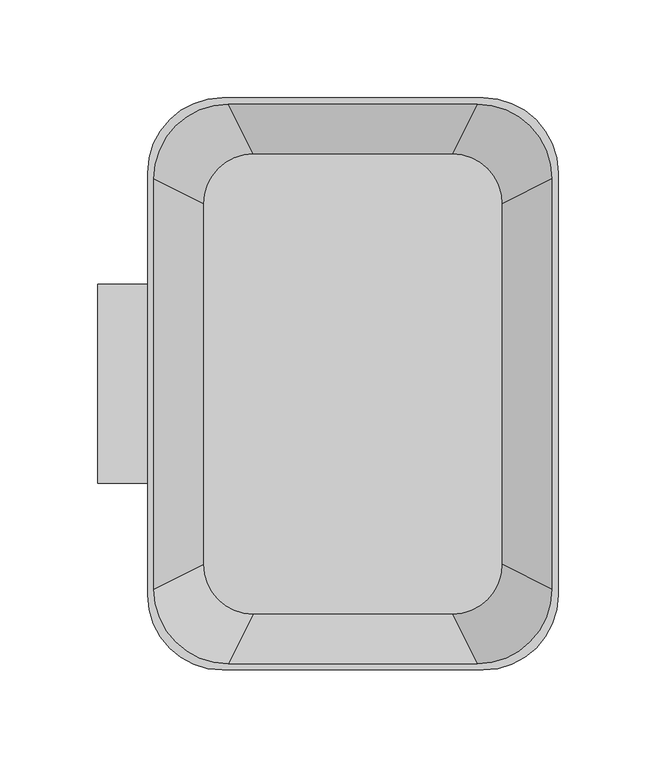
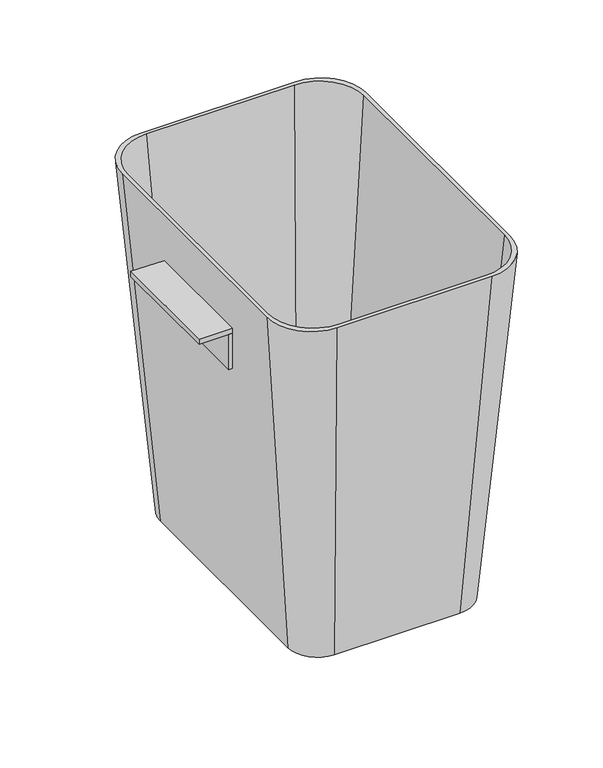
"""IFC4 building model written with IfcOpenShell, lengths in millimetres: furniture geometry, HermanMiller_Carts_CT728_WastebasketAndHolder : 12H x 8D x 11W."""

import ifcopenshell
import ifcopenshell.guid

model = None  # the IFC model being written
_history = None  # IfcOwnerHistory: only IFC2X3 demands one
_inside = {}  # id of a spatial element -> (the spatial element, [elements in it])
_under = {}  # id of a project, library or spatial element -> (it, [spatial elements below it])
_declared = {}  # id of a project -> (the project, [libraries it declares])
_typed = {}  # id of a type object -> (the type object, [elements of that type])
_made_of = {}  # id of a material, layer set ... -> (it, [elements and type objects made of it])


def new_model(schema):
    """Start an empty IFC model of exactly this schema.

    Asked for "IFC4X3", IfcOpenShell would pick the latest addendum, in which some entities
    have other attributes; the version numbers below select the first issue.
    IFC2X3 requires an IfcOwnerHistory on every rooted entity: one is made here for all.
    """
    global model, _history
    if schema == "IFC4X3":
        model = ifcopenshell.file(schema_version=(4, 3, 0, 0))
    else:
        model = ifcopenshell.file(schema=schema)
    _inside.clear()
    _under.clear()
    _declared.clear()
    _typed.clear()
    _made_of.clear()
    _history = None
    if model.schema == "IFC2X3":
        org = make("IfcOrganization", Name="unknown")
        user = make(
            "IfcPersonAndOrganization",
            ThePerson=make("IfcPerson", FamilyName="unknown"),
            TheOrganization=org,
        )
        app = make(
            "IfcApplication",
            ApplicationDeveloper=org,
            Version="unknown",
            ApplicationFullName="unknown",
            ApplicationIdentifier="unknown",
        )
        _history = make(
            "IfcOwnerHistory",
            OwningUser=user,
            OwningApplication=app,
            ChangeAction="ADDED",
            CreationDate=0,
        )
    return model


def make(cls, **values):
    """One entity of the class cls with the attributes given. An attribute that is None is left unset."""
    return model.create_entity(
        cls, **{name: value for name, value in values.items() if value is not None}
    )


def rooted(cls, **values):
    """An entity with a GlobalId (a new one), such as an element, a storey or a relation."""
    return make(cls, GlobalId=ifcopenshell.guid.new(), OwnerHistory=_history, **values)


def si_unit(unit_type, name, prefix=None):
    """IfcSIUnit, for example si_unit("LENGTHUNIT", "METRE", prefix="MILLI")."""
    return make("IfcSIUnit", UnitType=unit_type, Prefix=prefix, Name=name)


def assignment(units):
    """IfcUnitAssignment: the units of a project."""
    return None if units is None else make("IfcUnitAssignment", Units=units)


def point(xyz):
    """IfcCartesianPoint."""
    return None if xyz is None else make("IfcCartesianPoint", Coordinates=xyz)


def direction(xyz):
    """IfcDirection."""
    return None if xyz is None else make("IfcDirection", DirectionRatios=xyz)


def frame(location, z_axis=None, x_axis=None):
    """IfcAxis2Placement3D, a coordinate frame: its origin and axes. An axis left out is left unset."""
    return make(
        "IfcAxis2Placement3D",
        Location=point(location),
        Axis=direction(z_axis),
        RefDirection=direction(x_axis),
    )


def origin():
    """The frame at (0, 0, 0) with its axes left unset."""
    return frame((0.0, 0.0, 0.0))


def place(relative_to, where):
    """IfcLocalPlacement: puts the frame where relative to a parent placement (None: the world)."""
    return make(
        "IfcLocalPlacement", PlacementRelTo=relative_to, RelativePlacement=where
    )


def context(
    kind, dimensions, precision=None, world=None, true_north=None, identifier=None
):
    """IfcGeometricRepresentationContext, for example the 3D "Model" context."""
    return make(
        "IfcGeometricRepresentationContext",
        ContextIdentifier=identifier,
        ContextType=kind,
        CoordinateSpaceDimension=dimensions,
        Precision=precision,
        WorldCoordinateSystem=world,
        TrueNorth=true_north,
    )


def project(units=None, contexts=None):
    """IfcProject with its units and contexts."""
    return rooted(
        "IfcProject",
        Name="project",
        RepresentationContexts=contexts,
        UnitsInContext=assignment(units),
    )


def spatial(cls, under=None, at=None, **own):
    """A site, building, storey or space (cls), placed at a placement, below another one or the project."""
    s = rooted(cls, ObjectPlacement=at, **own)
    if under is not None:
        _under.setdefault(under.id(), (under, []))[1].append(s)
    return s


def polyline(points):
    """IfcPolyline through the points."""
    return make("IfcPolyline", Points=[point(p) for p in points])


def circle_curve(where, radius):
    """IfcCircle in the frame where."""
    return make("IfcCircle", Position=where, Radius=radius)


def outline(outer, holes=None, kind="AREA"):
    """IfcArbitraryClosedProfileDef: a profile drawn as a closed curve; with holes, ...WithVoids."""
    if holes is None:
        return make("IfcArbitraryClosedProfileDef", ProfileType=kind, OuterCurve=outer)
    return make(
        "IfcArbitraryProfileDefWithVoids",
        ProfileType=kind,
        OuterCurve=outer,
        InnerCurves=holes,
    )


def extrude(swept, where, along, depth):
    """IfcExtrudedAreaSolid: the profile swept, set in the frame where, extruded along a direction by depth."""
    return make(
        "IfcExtrudedAreaSolid",
        SweptArea=swept,
        Position=where,
        ExtrudedDirection=direction(along),
        Depth=depth,
    )


def shape(context_of_items, identifier, shape_type, items):
    """IfcShapeRepresentation: the items that make up one representation, for example the "Body"."""
    return make(
        "IfcShapeRepresentation",
        ContextOfItems=context_of_items,
        RepresentationIdentifier=identifier,
        RepresentationType=shape_type,
        Items=items,
    )


def source(mapping_origin, context_of_items, identifier, shape_type, items):
    """IfcRepresentationMap: a shape defined once, which mapped items show again and again."""
    return make(
        "IfcRepresentationMap",
        MappingOrigin=mapping_origin,
        MappedRepresentation=shape(context_of_items, identifier, shape_type, items),
    )


def transform(
    local_origin,
    x_axis=None,
    y_axis=None,
    z_axis=None,
    scale=None,
    scale2=None,
    scale3=None,
    uniform=True,
):
    """IfcCartesianTransformationOperator3D, or its non-uniform kind. x_axis, y_axis, z_axis: its Axis1, 2, 3."""
    if uniform:
        return make(
            "IfcCartesianTransformationOperator3D",
            Axis1=direction(x_axis),
            Axis2=direction(y_axis),
            LocalOrigin=point(local_origin),
            Scale=scale,
            Axis3=direction(z_axis),
        )
    return make(
        "IfcCartesianTransformationOperator3DnonUniform",
        Axis1=direction(x_axis),
        Axis2=direction(y_axis),
        LocalOrigin=point(local_origin),
        Scale=scale,
        Axis3=direction(z_axis),
        Scale2=scale2,
        Scale3=scale3,
    )


def mapped(mapping_source, mapping_target):
    """IfcMappedItem: shows the shape of a source again, moved by a transform."""
    return make(
        "IfcMappedItem", MappingSource=mapping_source, MappingTarget=mapping_target
    )


def made_of(thing, what):
    """Note that an element or type object is made of a material, layer set ...; save() writes the relation."""
    if what is not None:
        _made_of.setdefault(what.id(), (what, []))[1].append(thing)
    return thing


def element(
    cls,
    number,
    at=None,
    inside=None,
    cuts=None,
    type_object=None,
    material=None,
    context=None,
    identifier="Body",
    shape_type=None,
    held_by="IfcProductDefinitionShape",
    body=None,
    shapes=None,
    **own,
):
    """One element of the class cls, such as IfcWall. Its Tag is "e" and its number.

    at: its placement. inside: the storey or other place that contains it. cuts: it is an
    opening in that element (IfcRelVoidsElement). A single representation is given by context,
    identifier, shape_type and body (its items); several are given by shapes. held_by: the class
    of the entity that holds the representations. save() writes the other relations.
    """
    e = rooted(cls, Tag="e%d" % number, ObjectPlacement=at, **own)
    if body is not None:
        shapes = [shape(context, identifier, shape_type, body)]
    if shapes is not None:
        e.Representation = make(held_by, Representations=shapes)
    if inside is not None:
        _inside.setdefault(inside.id(), (inside, []))[1].append(e)
    if cuts is not None:
        rooted(
            "IfcRelVoidsElement", RelatingBuildingElement=cuts, RelatedOpeningElement=e
        )
    if type_object is not None:
        _typed.setdefault(type_object.id(), (type_object, []))[1].append(e)
    return made_of(e, material)


def aggregate(whole, parts):
    """IfcRelAggregates: a whole, such as a stair, and the parts it consists of."""
    return rooted("IfcRelAggregates", RelatingObject=whole, RelatedObjects=parts)


def save(model, path):
    """Write the relations noted so far, then the file.

    IfcRelAggregates (storeys below a building ...), IfcRelContainedInSpatialStructure (elements
    in a storey), IfcRelDefinesByType, IfcRelAssociatesMaterial and IfcRelDeclares: one each for
    every whole, place, type object, material and project.
    """
    for whole, parts in _under.values():
        aggregate(whole, parts)
    for where, things in _inside.values():
        rooted(
            "IfcRelContainedInSpatialStructure",
            RelatedElements=things,
            RelatingStructure=where,
        )
    for kind, things in _typed.values():
        rooted("IfcRelDefinesByType", RelatedObjects=things, RelatingType=kind)
    for what, things in _made_of.values():
        rooted("IfcRelAssociatesMaterial", RelatedObjects=things, RelatingMaterial=what)
    for by, libraries in _declared.values():
        rooted("IfcRelDeclares", RelatingContext=by, RelatedDefinitions=libraries)
    model.write(path)


def plane_surface(at):
    """IfcPlane: the flat surface through the origin of the frame at, square to its z axis."""
    return make("IfcPlane", Position=at)


def spline_surface(u_degree, v_degree, points, u_multiplicities, v_multiplicities, u_knots, v_knots, weights=None):
    """IfcBSplineSurfaceWithKnots; with weights, IfcRationalBSplineSurfaceWithKnots. points: one row for each step in u."""
    own = dict(
        UDegree=u_degree,
        VDegree=v_degree,
        ControlPointsList=[[point(p) for p in row] for row in points],
        SurfaceForm="UNSPECIFIED",
        UClosed=False,
        VClosed=False,
        SelfIntersect=False,
        UMultiplicities=u_multiplicities,
        VMultiplicities=v_multiplicities,
        UKnots=u_knots,
        VKnots=v_knots,
        KnotSpec="UNSPECIFIED",
    )
    if weights is None:
        return make("IfcBSplineSurfaceWithKnots", **own)
    return make("IfcRationalBSplineSurfaceWithKnots", WeightsData=weights, **own)


def advanced_brep(points, edges, surfaces, faces):
    """IfcAdvancedBrep: a solid bounded by faces that lie on surfaces and meet in shared edges.

    An edge is (start, end): straight between two places in points (the first is 0);
    or (start, end, curve); or (start, end, curve, False) where it runs against its curve.
    A face is (place in surfaces, loops), or (place, loops, False) where it looks against
    its surface's normal. A loop lists edges by number (the first is 1), with a minus sign
    where the edge is run from its end to its start. The first loop is the outer one.
    """
    corners = [point(p) for p in points]
    vertices = [make("IfcVertexPoint", VertexGeometry=c) for c in corners]
    made = []
    for start, end, *more in edges:
        made.append(
            make(
                "IfcEdgeCurve",
                EdgeStart=vertices[start],
                EdgeEnd=vertices[end],
                EdgeGeometry=more[0] if more else make("IfcPolyline", Points=[corners[start], corners[end]]),
                SameSense=more[1] if len(more) > 1 else True,
            )
        )
    hull = []
    for where, loops, *sense in faces:
        bounds = []
        for j, loop in enumerate(loops):
            ring = [make("IfcOrientedEdge", EdgeElement=made[abs(k) - 1], Orientation=k > 0) for k in loop]
            bounds.append(
                make(
                    "IfcFaceOuterBound" if j == 0 else "IfcFaceBound",
                    Bound=make("IfcEdgeLoop", EdgeList=ring),
                    Orientation=True,
                )
            )
        hull.append(make("IfcAdvancedFace", Bounds=bounds, FaceSurface=surfaces[where], SameSense=sense[0] if sense else True))
    return make("IfcAdvancedBrep", Outer=make("IfcClosedShell", CfsFaces=hull))


def furniture_ef9dce1d(model_context):
    return source(origin(), model_context, "Body", "SolidModel", [
        extrude(outline(polyline([(-86.0372951, -95.25), (-82.8622951, -95.25), (-82.8622951, -196.85), (-86.0372951, -196.85), (-86.0372951, -95.25)])), frame((0.0, 0.0, 451.866), z_axis=(0.0, 0.0, 1.0), x_axis=(1.0, 0.0, 0.0)), (0.0, 0.0, 1.0), 31.75),
        extrude(outline(polyline([(-82.8622951, -95.25), (-82.8622951, -196.85), (-111.4372951, -196.85), (-111.4372951, -95.25), (-82.8622951, -95.25)])), frame((0.0, 0.0, 483.616), z_axis=(0.0, 0.0, 1.0), x_axis=(1.0, 0.0, 0.0)), (0.0, 0.0, 1.0), 4.7625),
        advanced_brep(
        [(72.7127049, -25.4, 216.916), (98.1127049, -50.8, 216.916), (98.1127049, -241.3, 216.916), (72.7127049, -266.7, 216.916), (-35.2372951, -266.7, 216.916), (-60.6372951, -241.3, 216.916), (-60.6372951, -50.8, 216.916), (-35.2372951, -25.4, 216.916), (85.4127049, 0.0, 534.416), (-47.9372951, 0.0, 534.416), (-86.0372951, -38.1, 534.416), (-86.0372951, -254.0, 534.416), (-47.9372951, -292.1, 534.416), (85.4127049, -292.1, 534.416), (123.5127049, -254.0, 534.416), (123.5127049, -38.1, 534.416), (-44.7622951, -3.175, 534.416), (82.2377049, -3.175, 534.416), (120.3377049, -41.275, 534.416), (120.3377049, -250.825, 534.416), (82.2377049, -288.925, 534.416), (-44.7622951, -288.925, 534.416), (-82.8622951, -250.825, 534.416), (-82.8622951, -41.275, 534.416), (69.5377049, -28.575, 223.266), (-32.0622951, -28.575, 223.266), (-57.4622951, -53.975, 223.266), (-57.4622951, -238.125, 223.266), (-32.0622951, -263.525, 223.266), (69.5377049, -263.525, 223.266), (94.9377049, -238.125, 223.266), (94.9377049, -53.975, 223.266)],
        [
            (0, 1, circle_curve(frame((72.7127049, -50.8, 216.916), z_axis=(0.0, 0.0, -1.0), x_axis=(0.0, -1.0, 0.0)), 25.4)),
            (1, 2),
            (2, 3, circle_curve(frame((72.7127049, -241.3, 216.916), z_axis=(0.0, 0.0, -1.0), x_axis=(0.0, -1.0, 0.0)), 25.4)),
            (3, 4),
            (4, 5, circle_curve(frame((-35.2372951, -241.3, 216.916), z_axis=(0.0, 0.0, -1.0), x_axis=(0.0, -1.0, 0.0)), 25.4)),
            (5, 6),
            (6, 7, circle_curve(frame((-35.2372951, -50.8, 216.916), z_axis=(0.0, 0.0, -1.0), x_axis=(0.0, -1.0, 0.0)), 25.4)),
            (7, 0),
            (8, 9),
            (9, 10, circle_curve(frame((-47.9372951, -38.1, 534.416), z_axis=(0.0, 0.0, 1.0), x_axis=(0.0, -1.0, 0.0)), 38.1)),
            (10, 11),
            (11, 12, circle_curve(frame((-47.9372951, -254.0, 534.416), z_axis=(0.0, 0.0, 1.0), x_axis=(0.0, -1.0, 0.0)), 38.1)),
            (12, 13),
            (13, 14, circle_curve(frame((85.4127049, -254.0, 534.416), z_axis=(0.0, 0.0, 1.0), x_axis=(0.0, -1.0, 0.0)), 38.1)),
            (14, 15),
            (15, 8, circle_curve(frame((85.4127049, -38.1, 534.416), z_axis=(0.0, 0.0, 1.0), x_axis=(0.0, -1.0, 0.0)), 38.1)),
            (16, 17),
            (17, 18, circle_curve(frame((82.2377049, -41.275, 534.416), z_axis=(0.0, 0.0, -1.0), x_axis=(-1.0, 0.0, 0.0)), 38.1)),
            (18, 19),
            (19, 20, circle_curve(frame((82.2377049, -250.825, 534.416), z_axis=(0.0, 0.0, -1.0), x_axis=(-1.0, 0.0, 0.0)), 38.1)),
            (20, 21),
            (21, 22, circle_curve(frame((-44.7622951, -250.825, 534.416), z_axis=(0.0, 0.0, -1.0), x_axis=(-1.0, 0.0, 0.0)), 38.1)),
            (22, 23),
            (23, 16, circle_curve(frame((-44.7622951, -41.275, 534.416), z_axis=(0.0, 0.0, -1.0), x_axis=(-1.0, 0.0, 0.0)), 38.1)),
            (7, 9),
            (8, 0),
            (6, 10),
            (5, 11),
            (4, 12),
            (3, 13),
            (2, 14),
            (1, 15),
            (24, 25),
            (25, 26, circle_curve(frame((-32.0622951, -53.975, 223.266), z_axis=(0.0, 0.0, 1.0), x_axis=(-1.0, 0.0, 0.0)), 25.4)),
            (26, 27),
            (27, 28, circle_curve(frame((-32.0622951, -238.125, 223.266), z_axis=(0.0, 0.0, 1.0), x_axis=(-1.0, 0.0, 0.0)), 25.4)),
            (28, 29),
            (29, 30, circle_curve(frame((69.5377049, -238.125, 223.266), z_axis=(0.0, 0.0, 1.0), x_axis=(-1.0, 0.0, 0.0)), 25.4)),
            (30, 31),
            (31, 24, circle_curve(frame((69.5377049, -53.975, 223.266), z_axis=(0.0, 0.0, 1.0), x_axis=(-1.0, 0.0, 0.0)), 25.4)),
            (24, 17),
            (16, 25),
            (23, 26),
            (22, 27),
            (21, 28),
            (20, 29),
            (19, 30),
            (18, 31),
        ],
        [
            plane_surface(frame((18.7377049, -146.05, 216.916), z_axis=(0.0, 0.0, -1.0), x_axis=(-1.0, 0.0, 0.0))),
            plane_surface(frame((18.7377049, -146.05, 534.416), z_axis=(0.0, 0.0, 1.0), x_axis=(-1.0, 0.0, 0.0))),
            plane_surface(frame((18.7377049, 0.0, 534.416), z_axis=(0.0, 0.9968152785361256, -0.07974522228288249), x_axis=(1.0, 0.0, 0.0))),
            spline_surface(2, 1, [[(-86.0372951, -38.1, 534.416), (-60.6372951, -50.8, 216.916)], [(-86.0372951, -7.105427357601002e-15, 534.416), (-60.637295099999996, -25.39999999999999, 216.916)], [(-47.9372951, 0.0, 534.416), (-35.2372951, -25.4, 216.916)]], [3, 3], [2, 2], [0.0, 1.0], [0.0, 1.0], weights=[[1.0, 1.0], [0.7071067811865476, 0.7071067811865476], [1.0, 1.0]]),
            plane_surface(frame((-86.0372951, -146.05, 534.416), z_axis=(-0.9968152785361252, 0.0, -0.07974522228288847), x_axis=(0.0, 1.0, 0.0))),
            spline_surface(2, 1, [[(-47.9372951, -292.1, 534.416), (-35.2372951, -266.7, 216.916)], [(-86.03729510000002, -292.1000000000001, 534.416), (-60.637295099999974, -266.7, 216.916)], [(-86.0372951, -254.0, 534.416), (-60.6372951, -241.3, 216.916)]], [3, 3], [2, 2], [0.0, 1.0], [0.0, 1.0], weights=[[1.0, 1.0], [0.7071067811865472, 0.7071067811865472], [1.0, 1.0]]),
            plane_surface(frame((18.7377049, -292.1, 534.416), z_axis=(0.0, -0.9968152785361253, -0.07974522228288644), x_axis=(-1.0, 0.0, 0.0))),
            spline_surface(2, 1, [[(123.5127049, -254.0, 534.416), (98.1127049, -241.3, 216.916)], [(123.51270489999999, -292.1, 534.416), (98.11270489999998, -266.7, 216.916)], [(85.4127049, -292.1, 534.416), (72.7127049, -266.7, 216.916)]], [3, 3], [2, 2], [0.0, 1.0], [0.0, 1.0], weights=[[1.0, 1.0], [0.7071067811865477, 0.7071067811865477], [1.0, 1.0]]),
            plane_surface(frame((123.5127049, -146.05, 534.416), z_axis=(0.9968152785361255, 0.0, -0.07974522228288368), x_axis=(0.0, -1.0, 0.0))),
            spline_surface(2, 1, [[(85.4127049, 0.0, 534.416), (72.7127049, -25.4, 216.916)], [(123.51270489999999, -7.105427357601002e-15, 534.416), (98.11270490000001, -25.400000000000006, 216.916)], [(123.5127049, -38.1, 534.416), (98.1127049, -50.8, 216.916)]], [3, 3], [2, 2], [0.0, 1.0], [0.0, 1.0], weights=[[1.0, 1.0], [0.7071067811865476, 0.7071067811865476], [1.0, 1.0]]),
            plane_surface(frame((18.7377049, -146.05, 223.266), z_axis=(0.0, 0.0, 1.0), x_axis=(-1.0, 0.0, 0.0))),
            plane_surface(frame((18.7377049, -3.175, 534.416), z_axis=(0.0, -0.9966846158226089, 0.08136200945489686), x_axis=(1.0, 0.0, 0.0))),
            spline_surface(1, 2, [[(-82.8622951, -41.275, 534.416), (-82.86229509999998, -3.1750000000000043, 534.416), (-44.7622951, -3.175, 534.416)], [(-57.4622951, -53.975, 223.266), (-57.46229509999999, -28.575000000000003, 223.266), (-32.0622951, -28.575, 223.266)]], [2, 2], [3, 3], [0.0, 1.0], [0.0, 1.0], weights=[[1.0, 0.7071067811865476, 1.0], [1.0, 0.7071067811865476, 1.0]]),
            plane_surface(frame((-82.8622951, -146.05, 534.416), z_axis=(0.9966846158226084, 0.0, 0.0813620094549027), x_axis=(0.0, 1.0, 0.0))),
            spline_surface(1, 2, [[(-44.7622951, -288.925, 534.416), (-82.86229510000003, -288.92500000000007, 534.416), (-82.8622951, -250.825, 534.416)], [(-32.0622951, -263.525, 223.266), (-57.46229509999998, -263.525, 223.266), (-57.4622951, -238.125, 223.266)]], [2, 2], [3, 3], [0.0, 1.0], [0.0, 1.0], weights=[[1.0, 0.7071067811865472, 1.0], [1.0, 0.7071067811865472, 1.0]]),
            plane_surface(frame((18.7377049, -288.925, 534.416), z_axis=(0.0, 0.9966846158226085, 0.0813620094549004), x_axis=(-1.0, 0.0, 0.0))),
            spline_surface(1, 2, [[(120.3377049, -250.825, 534.416), (120.33770489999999, -288.925, 534.416), (82.2377049, -288.925, 534.416)], [(94.9377049, -238.125, 223.266), (94.93770489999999, -263.525, 223.266), (69.5377049, -263.525, 223.266)]], [2, 2], [3, 3], [0.0, 1.0], [0.0, 1.0], weights=[[1.0, 0.7071067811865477, 1.0], [1.0, 0.7071067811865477, 1.0]]),
            plane_surface(frame((120.3377049, -146.05, 534.416), z_axis=(-0.9966846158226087, 0.0, 0.08136200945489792), x_axis=(0.0, -1.0, 0.0))),
            spline_surface(1, 2, [[(82.2377049, -3.175, 534.416), (120.3377049, -3.1750000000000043, 534.416), (120.3377049, -41.275, 534.416)], [(69.5377049, -28.575, 223.266), (94.9377049, -28.575000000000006, 223.266), (94.9377049, -53.975, 223.266)]], [2, 2], [3, 3], [0.0, 1.0], [0.0, 1.0], weights=[[1.0, 0.7071067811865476, 1.0], [1.0, 0.7071067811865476, 1.0]]),
        ],
        [
            (0, [[1, 2, 3, 4, 5, 6, 7, 8]]),
            (1, [[9, 10, 11, 12, 13, 14, 15, 16], [17, 18, 19, 20, 21, 22, 23, 24]]),
            (2, [[-8, 25, -9, 26]]),
            (3, [[-7, 27, -10, -25]]),
            (4, [[-6, 28, -11, -27]]),
            (5, [[-5, 29, -12, -28]]),
            (6, [[-4, 30, -13, -29]]),
            (7, [[-3, 31, -14, -30]]),
            (8, [[-2, 32, -15, -31]]),
            (9, [[-1, -26, -16, -32]]),
            (10, [[33, 34, 35, 36, 37, 38, 39, 40]]),
            (11, [[-33, 41, -17, 42]]),
            (12, [[-34, -42, -24, 43]]),
            (13, [[-35, -43, -23, 44]]),
            (14, [[-36, -44, -22, 45]]),
            (15, [[-37, -45, -21, 46]]),
            (16, [[-38, -46, -20, 47]]),
            (17, [[-39, -47, -19, 48]]),
            (18, [[-40, -48, -18, -41]]),
        ],
    ),
    ])


if __name__ == "__main__":
    model = new_model("IFC4")
    model_context = context("Model", 3, world=origin())
    ifc_project = project(units=[si_unit("LENGTHUNIT", "METRE", prefix="MILLI")], contexts=[model_context])
    site = spatial("IfcSite", under=ifc_project)
    building = spatial("IfcBuilding", under=site)
    placement = place(None, origin())
    furniture_shape = furniture_ef9dce1d(model_context)
    element("IfcFurniture", 1, ObjectType="HermanMiller_Carts_CT728_WastebasketAndHolder : 12H x 8D x 11W", at=placement, inside=building, context=model_context, shape_type="MappedRepresentation", body=[
        mapped(furniture_shape, transform((0.0, 0.0, 0.0), x_axis=(1.0, 0.0, 0.0), y_axis=(0.0, 1.0, 0.0), z_axis=(0.0, 0.0, 1.0))),
    ])
    save(model, "model.ifc")
